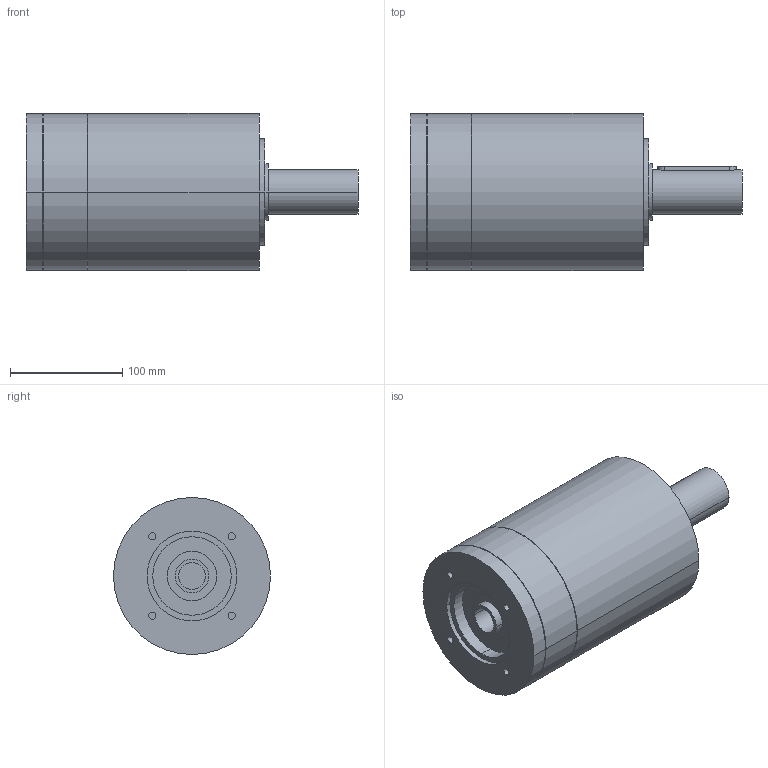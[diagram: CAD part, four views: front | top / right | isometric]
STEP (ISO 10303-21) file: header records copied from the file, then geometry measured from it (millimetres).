
FILE_DESCRIPTION(('CoCreate Modeling STEP Export'),'2;1');
FILE_NAME('GPR150_ig-9-12-16-20-28-35_40_B14_24_P02.stp','2014-08-19T17:03:29',(''),(''),'CoCreate Modeling STEP processor for AP214 (Solid Model)','CoCreate Modeling 16.00C 25-Feb-2009 (C) Parametric Technology GmbH','');
FILE_SCHEMA(('AUTOMOTIVE_DESIGN { 1 0 10303 214 1 1 1 1 }'));
Length unit declared in the file: millimetre
Products named in the file (2): GPR150_ig-9-12-16-20-28-35_40_B14_24_P02
Assembly tree (1 placements, depth 2):
  GPR150_ig-9-12-16-20-28-35_40_B14_24_P02
    GPR150_ig-9-12-16-20-28-35_40_B14_24_P02
Bounding box: 296 x 140 x 140 mm (x, y, z)
Volume: 3247771.8 mm3; surface area: 150422.3 mm2
Topology: 1 solids, 1 shells, 83 faces, 204 edges, 144 vertices
Faces by surface type: cylinder 50, plane 27, cone 6
Entity records: 2100 total; most frequent: ORIENTED_EDGE 404, CARTESIAN_POINT 400, DIRECTION 274, EDGE_CURVE 202, VERTEX_POINT 144, AXIS2_PLACEMENT_3D 106, EDGE_LOOP 106, FACE_OUTER_BOUND 83
